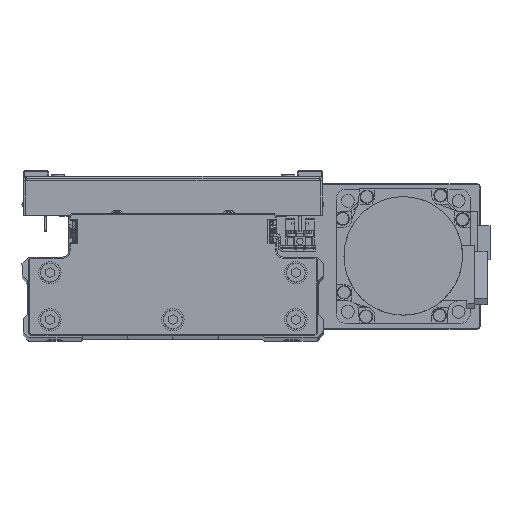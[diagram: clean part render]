
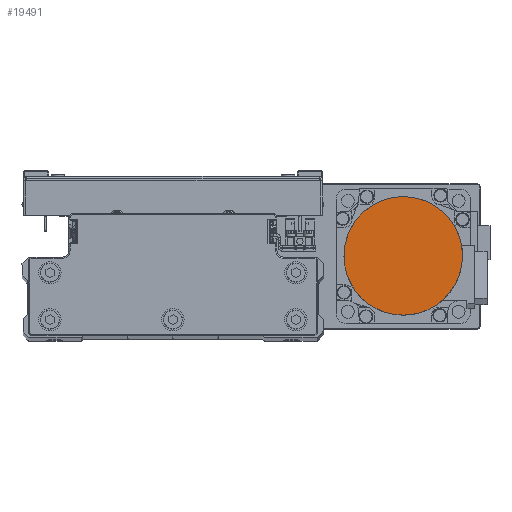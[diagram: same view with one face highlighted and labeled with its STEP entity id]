
A CAD part, top view. The second image highlights one B-rep face of the part: STEP entity #19491.
In plain terms, the highlighted planar face has unit normal (0, 0, 1) as drawn and (0, 0, -1) by its records, which use the part's own axes.
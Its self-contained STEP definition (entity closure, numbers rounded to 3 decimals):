
#1438 = CARTESIAN_POINT ( 'NONE',  ( 26.5, 1.734, -109.7 ) ) ;
#1669 = CARTESIAN_POINT ( 'NONE',  ( 6.871, 25.652, -109.7 ) ) ;
#1880 = CARTESIAN_POINT ( 'NONE',  ( -22.998, 13.28, -109.7 ) ) ;
#2713 = CARTESIAN_POINT ( 'NONE',  ( -13.28, -22.998, -109.7 ) ) ;
#2942 = CARTESIAN_POINT ( 'NONE',  ( 17.512, -19.965, -109.7 ) ) ;
#4974 = CARTESIAN_POINT ( 'NONE',  ( 0., 0., -109.7 ) ) ;
#5012 = CARTESIAN_POINT ( 'NONE',  ( 13.28, 22.998, -109.7 ) ) ;
#5236 = CARTESIAN_POINT ( 'NONE',  ( -17.512, 19.965, -109.7 ) ) ;
#6074 = CARTESIAN_POINT ( 'NONE',  ( -19.965, -17.512, -109.7 ) ) ;
#6279 = CARTESIAN_POINT ( 'NONE',  ( 11.744, -23.819, -109.7 ) ) ;
#8371 = CARTESIAN_POINT ( 'NONE',  ( 19.965, 17.512, -109.7 ) ) ;
#8490 = EDGE_CURVE ( 'NONE', #19636, #33553, #10646, .T. ) ;
#8600 = CARTESIAN_POINT ( 'NONE',  ( -11.744, 23.819, -109.7 ) ) ;
#8858 = EDGE_CURVE ( 'NONE', #33553, #19636, #34147, .T. ) ;
#9432 = CARTESIAN_POINT ( 'NONE',  ( -23.819, -11.744, -109.7 ) ) ;
#9658 = CARTESIAN_POINT ( 'NONE',  ( 3.469, -26.329, -109.7 ) ) ;
#9858 = CARTESIAN_POINT ( 'NONE',  ( 26.329, -3.469, -109.7 ) ) ;
#10646 = B_SPLINE_CURVE_WITH_KNOTS ( 'NONE', 3,
 ( #32118, #1438, #15097, #28749, #42458, #11739, #25387, #39093, #8371, #22030, #35704, #5012, #18684, #32350, #1669, #15321, #28976, #42672, #11952, #25603, #39310, #8600, #22256, #35934, #5236, #18905, #32569, #1880, #15531, #29195, #42891, #12181, #25832, #39530 ),
 .UNSPECIFIED., .F., .F.,
 ( 4, 2, 2, 2, 2, 2, 2, 2, 2, 2, 2, 2, 2, 2, 2, 2, 4 ),
 ( 0., 0.062, 0.125, 0.187, 0.25, 0.312, 0.375, 0.437, 0.5, 0.562, 0.625, 0.687, 0.75, 0.813, 0.875, 0.938, 1. ),
 .UNSPECIFIED. ) ;
#11739 = CARTESIAN_POINT ( 'NONE',  ( 23.819, 11.744, -109.7 ) ) ;
#11770 = CARTESIAN_POINT ( 'NONE',  ( -26.5, 0., -109.7 ) ) ;
#11952 = CARTESIAN_POINT ( 'NONE',  ( -3.469, 26.329, -109.7 ) ) ;
#12181 = CARTESIAN_POINT ( 'NONE',  ( -26.329, 3.469, -109.7 ) ) ;
#12783 = CARTESIAN_POINT ( 'NONE',  ( -26.329, -3.469, -109.7 ) ) ;
#13007 = CARTESIAN_POINT ( 'NONE',  ( -3.469, -26.329, -109.7 ) ) ;
#13232 = CARTESIAN_POINT ( 'NONE',  ( 23.819, -11.744, -109.7 ) ) ;
#15097 = CARTESIAN_POINT ( 'NONE',  ( 26.329, 3.469, -109.7 ) ) ;
#15321 = CARTESIAN_POINT ( 'NONE',  ( 3.469, 26.329, -109.7 ) ) ;
#15531 = CARTESIAN_POINT ( 'NONE',  ( -23.819, 11.744, -109.7 ) ) ;
#16360 = CARTESIAN_POINT ( 'NONE',  ( -11.744, -23.819, -109.7 ) ) ;
#16591 = CARTESIAN_POINT ( 'NONE',  ( 19.965, -17.512, -109.7 ) ) ;
#18643 = DIRECTION ( 'NONE',  ( 0., 0., 1. ) ) ;
#18684 = CARTESIAN_POINT ( 'NONE',  ( 11.744, 23.819, -109.7 ) ) ;
#18905 = CARTESIAN_POINT ( 'NONE',  ( -19.965, 17.512, -109.7 ) ) ;
#19491 = ADVANCED_FACE ( 'NONE', ( #21994 ), #35668, .F. ) ;
#19636 = VERTEX_POINT ( 'NONE', #23116 ) ;
#19735 = CARTESIAN_POINT ( 'NONE',  ( -17.512, -19.965, -109.7 ) ) ;
#19945 = CARTESIAN_POINT ( 'NONE',  ( 13.28, -22.998, -109.7 ) ) ;
#21994 = FACE_OUTER_BOUND ( 'NONE', #43012, .T. ) ;
#22030 = CARTESIAN_POINT ( 'NONE',  ( 17.512, 19.965, -109.7 ) ) ;
#22256 = CARTESIAN_POINT ( 'NONE',  ( -13.28, 22.998, -109.7 ) ) ;
#23099 = CARTESIAN_POINT ( 'NONE',  ( -22.998, -13.28, -109.7 ) ) ;
#23116 = CARTESIAN_POINT ( 'NONE',  ( 26.5, 0., -109.7 ) ) ;
#23311 = CARTESIAN_POINT ( 'NONE',  ( 6.871, -25.652, -109.7 ) ) ;
#23525 = CARTESIAN_POINT ( 'NONE',  ( 26.5, -1.734, -109.7 ) ) ;
#24668 = ORIENTED_EDGE ( 'NONE', *, *, #8858, .F. ) ;
#25387 = CARTESIAN_POINT ( 'NONE',  ( 22.998, 13.28, -109.7 ) ) ;
#25603 = CARTESIAN_POINT ( 'NONE',  ( -6.871, 25.652, -109.7 ) ) ;
#25832 = CARTESIAN_POINT ( 'NONE',  ( -26.5, 1.734, -109.7 ) ) ;
#26446 = CARTESIAN_POINT ( 'NONE',  ( -25.652, -6.871, -109.7 ) ) ;
#26671 = CARTESIAN_POINT ( 'NONE',  ( -1.734, -26.5, -109.7 ) ) ;
#26885 = CARTESIAN_POINT ( 'NONE',  ( 25.147, -8.539, -109.7 ) ) ;
#28749 = CARTESIAN_POINT ( 'NONE',  ( 25.652, 6.871, -109.7 ) ) ;
#28976 = CARTESIAN_POINT ( 'NONE',  ( 1.734, 26.5, -109.7 ) ) ;
#29195 = CARTESIAN_POINT ( 'NONE',  ( -25.147, 8.539, -109.7 ) ) ;
#29801 = CARTESIAN_POINT ( 'NONE',  ( -26.5, 0., -109.7 ) ) ;
#30027 = CARTESIAN_POINT ( 'NONE',  ( -8.539, -25.147, -109.7 ) ) ;
#30253 = CARTESIAN_POINT ( 'NONE',  ( 21.07, -16.165, -109.7 ) ) ;
#32118 = CARTESIAN_POINT ( 'NONE',  ( 26.5, 0., -109.7 ) ) ;
#32309 = DIRECTION ( 'NONE',  ( 1., 0., 0. ) ) ;
#32350 = CARTESIAN_POINT ( 'NONE',  ( 8.539, 25.147, -109.7 ) ) ;
#32569 = CARTESIAN_POINT ( 'NONE',  ( -21.07, 16.165, -109.7 ) ) ;
#33399 = CARTESIAN_POINT ( 'NONE',  ( -16.165, -21.07, -109.7 ) ) ;
#33553 = VERTEX_POINT ( 'NONE', #11770 ) ;
#33618 = CARTESIAN_POINT ( 'NONE',  ( 16.165, -21.07, -109.7 ) ) ;
#34147 = B_SPLINE_CURVE_WITH_KNOTS ( 'NONE', 3,
 ( #29801, #43495, #12783, #26446, #40142, #9432, #23099, #36778, #6074, #19735, #33399, #2713, #16360, #30027, #43726, #13007, #26671, #40371, #9658, #23311, #36990, #6279, #19945, #33618, #2942, #16591, #30253, #43957, #13232, #26885, #40577, #9858, #23525, #37209 ),
 .UNSPECIFIED., .F., .F.,
 ( 4, 2, 2, 2, 2, 2, 2, 2, 2, 2, 2, 2, 2, 2, 2, 2, 4 ),
 ( 0., 0.063, 0.125, 0.188, 0.25, 0.312, 0.375, 0.437, 0.5, 0.562, 0.625, 0.687, 0.75, 0.813, 0.875, 0.938, 1. ),
 .UNSPECIFIED. ) ;
#34966 = AXIS2_PLACEMENT_3D ( 'NONE', #4974, #18643, #32309 ) ;
#35668 = PLANE ( 'NONE',  #34966 ) ;
#35704 = CARTESIAN_POINT ( 'NONE',  ( 16.165, 21.07, -109.7 ) ) ;
#35934 = CARTESIAN_POINT ( 'NONE',  ( -16.165, 21.07, -109.7 ) ) ;
#36778 = CARTESIAN_POINT ( 'NONE',  ( -21.07, -16.165, -109.7 ) ) ;
#36990 = CARTESIAN_POINT ( 'NONE',  ( 8.539, -25.147, -109.7 ) ) ;
#37209 = CARTESIAN_POINT ( 'NONE',  ( 26.5, 0., -109.7 ) ) ;
#39093 = CARTESIAN_POINT ( 'NONE',  ( 21.07, 16.165, -109.7 ) ) ;
#39259 = ORIENTED_EDGE ( 'NONE', *, *, #8490, .F. ) ;
#39310 = CARTESIAN_POINT ( 'NONE',  ( -8.539, 25.147, -109.7 ) ) ;
#39530 = CARTESIAN_POINT ( 'NONE',  ( -26.5, 0., -109.7 ) ) ;
#40142 = CARTESIAN_POINT ( 'NONE',  ( -25.147, -8.539, -109.7 ) ) ;
#40371 = CARTESIAN_POINT ( 'NONE',  ( 1.734, -26.5, -109.7 ) ) ;
#40577 = CARTESIAN_POINT ( 'NONE',  ( 25.652, -6.871, -109.7 ) ) ;
#42458 = CARTESIAN_POINT ( 'NONE',  ( 25.147, 8.539, -109.7 ) ) ;
#42672 = CARTESIAN_POINT ( 'NONE',  ( -1.734, 26.5, -109.7 ) ) ;
#42891 = CARTESIAN_POINT ( 'NONE',  ( -25.652, 6.871, -109.7 ) ) ;
#43012 = EDGE_LOOP ( 'NONE', ( #39259, #24668 ) ) ;
#43495 = CARTESIAN_POINT ( 'NONE',  ( -26.5, -1.734, -109.7 ) ) ;
#43726 = CARTESIAN_POINT ( 'NONE',  ( -6.871, -25.652, -109.7 ) ) ;
#43957 = CARTESIAN_POINT ( 'NONE',  ( 22.998, -13.28, -109.7 ) ) ;
